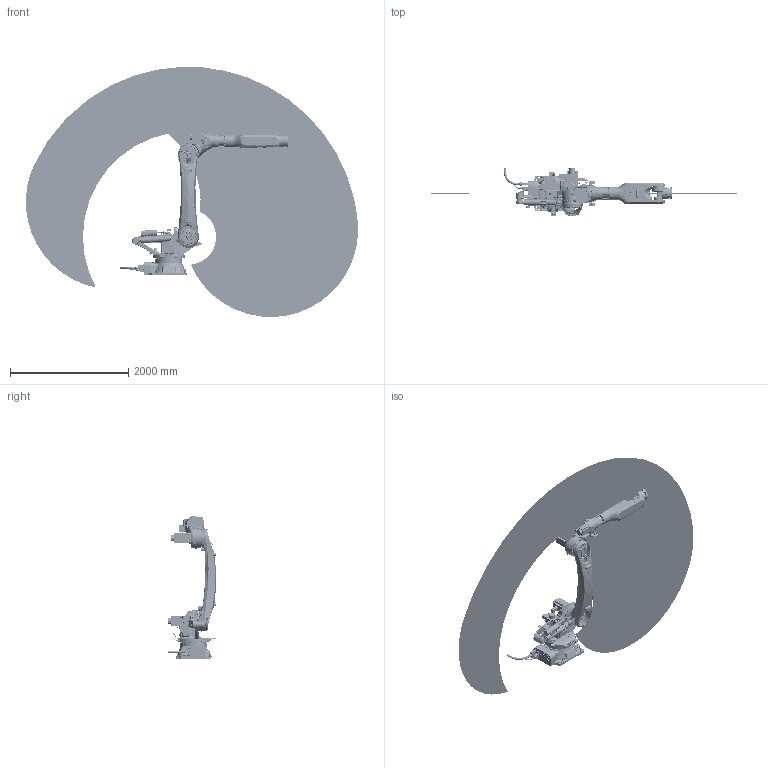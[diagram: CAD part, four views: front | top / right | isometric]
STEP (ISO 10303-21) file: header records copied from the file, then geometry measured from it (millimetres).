
FILE_DESCRIPTION (( 'STEP AP203' ), '1' );
FILE_NAME ('NB220-15032 ¼ò»¯Ä£ÐÍ(20250827).stp', '2025-08-27T09:53:14', ( '' ), ( '' ), 'SwSTEP 2.0', 'SolidWorks 2012', '' );
FILE_SCHEMA (( 'CONFIG_CONTROL_DESIGN' ));
Length unit declared in the file: millimetre
Products named in the file (11): NB220-15032 潠趙耀倰(20250827); NB220-3Dwork-B; NB220-xiaobiqian-B; NB220-Logo; NB220-xiaobiqian-B_MODEL; NB220-shouwan-A; NB220-shuchu-A; NB220-xiaobihou-A; NB220-dabi-B; NB220-base-A; NB220-yao-A
Assembly tree (11 placements, depth 3):
  NB220-15032 潠趙耀倰(20250827)
    NB220-base-A
    NB220-yao-A
    NB220-dabi-B
    NB220-xiaobihou-A
    NB220-shouwan-A
    NB220-shuchu-A
    NB220-xiaobiqian-B_MODEL
      NB220-xiaobiqian-B
      NB220-Logo  x2
    NB220-3Dwork-B
Bounding box: 5612.16 x 826.15 x 4227.22 mm (x, y, z)
Volume: 262990978.9 mm3; surface area: 25390352.5 mm2
Topology: 27 solids, 131 shells, 13510 faces, 32720 edges, 20010 vertices
Faces by surface type: cylinder 4516, plane 4054, bspline 2451, cone 1261, torus 1078, sphere 150
Entity records: 600697 total; most frequent: CARTESIAN_POINT 301822, ORIENTED_EDGE 63768, DIRECTION 59788, EDGE_CURVE 31887, AXIS2_PLACEMENT_3D 23782, VERTEX_POINT 19853, EDGE_LOOP 14795, ADVANCED_FACE 13422
